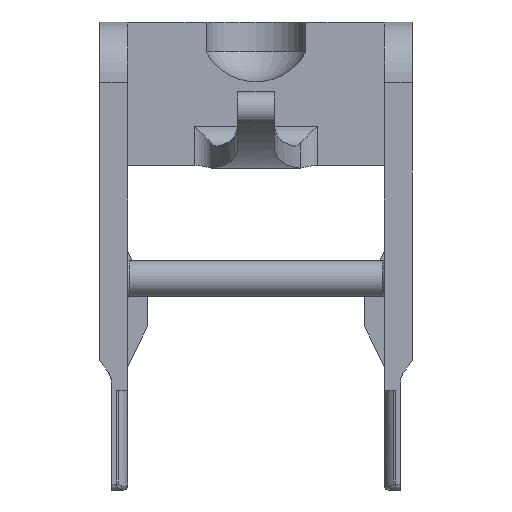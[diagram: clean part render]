
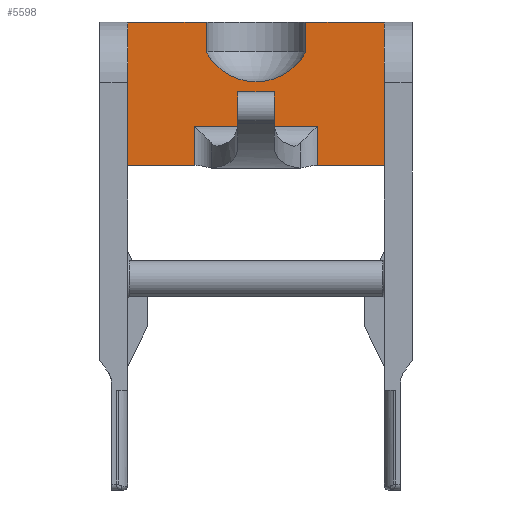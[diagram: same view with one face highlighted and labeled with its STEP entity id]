
A CAD part, front view. The second image highlights one B-rep face of the part: STEP entity #5598.
In plain terms, the highlighted planar face has unit normal (0, -1, 0).
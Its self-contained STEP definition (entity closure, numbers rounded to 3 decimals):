
#35 = VERTEX_POINT ( 'NONE', #6123 ) ;
#150 = DIRECTION ( 'NONE',  ( 0., 0., -1. ) ) ;
#184 = LINE ( 'NONE', #8215, #5785 ) ;
#277 = EDGE_CURVE ( 'NONE', #5712, #2434, #1921, .T. ) ;
#304 = VECTOR ( 'NONE', #1190, 1000. ) ;
#306 = VECTOR ( 'NONE', #6446, 1000. ) ;
#523 = VECTOR ( 'NONE', #150, 1000. ) ;
#581 = ORIENTED_EDGE ( 'NONE', *, *, #277, .T. ) ;
#715 = DIRECTION ( 'NONE',  ( 0., -1., 0. ) ) ;
#805 = CARTESIAN_POINT ( 'NONE',  ( 2.5, 24.555, 2.691 ) ) ;
#1190 = DIRECTION ( 'NONE',  ( 0., 0., 1. ) ) ;
#1214 = CARTESIAN_POINT ( 'NONE',  ( -19.47, 24.555, 4.191 ) ) ;
#1358 = CARTESIAN_POINT ( 'NONE',  ( 3.085, 24.555, -19.3 ) ) ;
#1422 = AXIS2_PLACEMENT_3D ( 'NONE', #3330, #3302, #8483 ) ;
#1446 = DIRECTION ( 'NONE',  ( 0., 0., 1. ) ) ;
#1574 = VECTOR ( 'NONE', #6541, 1000. ) ;
#1597 = VERTEX_POINT ( 'NONE', #6988 ) ;
#1617 = LINE ( 'NONE', #2232, #3568 ) ;
#1646 = VERTEX_POINT ( 'NONE', #2596 ) ;
#1738 = VERTEX_POINT ( 'NONE', #6334 ) ;
#1858 = ORIENTED_EDGE ( 'NONE', *, *, #7159, .T. ) ;
#1921 = CIRCLE ( 'NONE', #1422, 2.871 ) ;
#1968 = VERTEX_POINT ( 'NONE', #2934 ) ;
#1999 = ORIENTED_EDGE ( 'NONE', *, *, #8680, .T. ) ;
#2016 = CARTESIAN_POINT ( 'NONE',  ( 2.5, 24.555, 5.267 ) ) ;
#2144 = VECTOR ( 'NONE', #7093, 1000. ) ;
#2196 = LINE ( 'NONE', #4101, #304 ) ;
#2232 = CARTESIAN_POINT ( 'NONE',  ( -19.47, 24.555, 4.191 ) ) ;
#2305 = DIRECTION ( 'NONE',  ( 1., 0., 0. ) ) ;
#2306 = LINE ( 'NONE', #3684, #6247 ) ;
#2434 = VERTEX_POINT ( 'NONE', #4126 ) ;
#2472 = VECTOR ( 'NONE', #1446, 1000. ) ;
#2536 = LINE ( 'NONE', #2016, #306 ) ;
#2596 = CARTESIAN_POINT ( 'NONE',  ( 6.45, 24.555, 4.191 ) ) ;
#2667 = ORIENTED_EDGE ( 'NONE', *, *, #6531, .T. ) ;
#2858 = EDGE_CURVE ( 'NONE', #1968, #4213, #3622, .T. ) ;
#2899 = EDGE_CURVE ( 'NONE', #1738, #1646, #6164, .T. ) ;
#2934 = CARTESIAN_POINT ( 'NONE',  ( 3.085, 24.555, -3.009 ) ) ;
#3024 = EDGE_LOOP ( 'NONE', ( #4239, #2667, #581, #4294, #4335, #4585, #1858, #3740, #7265, #1999, #7248, #3720, #8025 ) ) ;
#3034 = CARTESIAN_POINT ( 'NONE',  ( 3.085, 24.555, -1.035 ) ) ;
#3181 = AXIS2_PLACEMENT_3D ( 'NONE', #5786, #715, #5813 ) ;
#3302 = DIRECTION ( 'NONE',  ( 0., 1., 0. ) ) ;
#3330 = CARTESIAN_POINT ( 'NONE',  ( -0.022, 24.555, 4.062 ) ) ;
#3350 = DIRECTION ( 'NONE',  ( 0., 1., 0. ) ) ;
#3461 = VERTEX_POINT ( 'NONE', #5792 ) ;
#3464 = EDGE_CURVE ( 'NONE', #7912, #3461, #9418, .T. ) ;
#3568 = VECTOR ( 'NONE', #6666, 1000. ) ;
#3622 = LINE ( 'NONE', #1358, #7560 ) ;
#3684 = CARTESIAN_POINT ( 'NONE',  ( -6.45, 24.555, -3.009 ) ) ;
#3720 = ORIENTED_EDGE ( 'NONE', *, *, #6570, .T. ) ;
#3734 = CARTESIAN_POINT ( 'NONE',  ( -2.5, 24.555, 2.691 ) ) ;
#3740 = ORIENTED_EDGE ( 'NONE', *, *, #6271, .T. ) ;
#3887 = LINE ( 'NONE', #9366, #7819 ) ;
#3927 = AXIS2_PLACEMENT_3D ( 'NONE', #7793, #3350, #8534 ) ;
#4081 = VERTEX_POINT ( 'NONE', #7396 ) ;
#4101 = CARTESIAN_POINT ( 'NONE',  ( -3.085, 24.555, -19.3 ) ) ;
#4126 = CARTESIAN_POINT ( 'NONE',  ( 0., 24.555, 1.191 ) ) ;
#4213 = VERTEX_POINT ( 'NONE', #3034 ) ;
#4239 = ORIENTED_EDGE ( 'NONE', *, *, #4856, .F. ) ;
#4294 = ORIENTED_EDGE ( 'NONE', *, *, #4505, .T. ) ;
#4335 = ORIENTED_EDGE ( 'NONE', *, *, #3464, .T. ) ;
#4505 = EDGE_CURVE ( 'NONE', #2434, #7912, #6710, .T. ) ;
#4585 = ORIENTED_EDGE ( 'NONE', *, *, #9192, .F. ) ;
#4683 = VERTEX_POINT ( 'NONE', #8757 ) ;
#4804 = VERTEX_POINT ( 'NONE', #5178 ) ;
#4856 = EDGE_CURVE ( 'NONE', #1597, #1646, #1617, .T. ) ;
#4959 = DIRECTION ( 'NONE',  ( 1., 0., 0. ) ) ;
#5059 = CARTESIAN_POINT ( 'NONE',  ( -2.5, 24.555, 5.267 ) ) ;
#5178 = CARTESIAN_POINT ( 'NONE',  ( -6.45, 24.555, -3.009 ) ) ;
#5259 = CARTESIAN_POINT ( 'NONE',  ( -6.45, 24.555, 1.141 ) ) ;
#5598 = ADVANCED_FACE ( 'NONE', ( #7252 ), #9479, .T. ) ;
#5712 = VERTEX_POINT ( 'NONE', #805 ) ;
#5785 = VECTOR ( 'NONE', #2305, 1000. ) ;
#5786 = CARTESIAN_POINT ( 'NONE',  ( -19.47, 24.555, 4.191 ) ) ;
#5792 = CARTESIAN_POINT ( 'NONE',  ( -2.5, 24.555, 4.191 ) ) ;
#5813 = DIRECTION ( 'NONE',  ( 0., 0., -1. ) ) ;
#5849 = CARTESIAN_POINT ( 'NONE',  ( 6.45, 24.555, 1.141 ) ) ;
#5896 = EDGE_CURVE ( 'NONE', #35, #4081, #2196, .T. ) ;
#6123 = CARTESIAN_POINT ( 'NONE',  ( -3.085, 24.555, -3.009 ) ) ;
#6164 = LINE ( 'NONE', #5849, #2472 ) ;
#6247 = VECTOR ( 'NONE', #8854, 1000. ) ;
#6271 = EDGE_CURVE ( 'NONE', #4804, #35, #184, .T. ) ;
#6334 = CARTESIAN_POINT ( 'NONE',  ( 6.45, 24.555, -3.009 ) ) ;
#6446 = DIRECTION ( 'NONE',  ( 0., 0., -1. ) ) ;
#6499 = DIRECTION ( 'NONE',  ( 0., 0., 1. ) ) ;
#6531 = EDGE_CURVE ( 'NONE', #1597, #5712, #2536, .T. ) ;
#6541 = DIRECTION ( 'NONE',  ( 0., 0., 1. ) ) ;
#6570 = EDGE_CURVE ( 'NONE', #1968, #1738, #2306, .T. ) ;
#6666 = DIRECTION ( 'NONE',  ( 1., 0., 0. ) ) ;
#6710 = CIRCLE ( 'NONE', #3927, 2.871 ) ;
#6988 = CARTESIAN_POINT ( 'NONE',  ( 2.5, 24.555, 4.191 ) ) ;
#7093 = DIRECTION ( 'NONE',  ( 1., 0., 0. ) ) ;
#7159 = EDGE_CURVE ( 'NONE', #4683, #4804, #8302, .T. ) ;
#7248 = ORIENTED_EDGE ( 'NONE', *, *, #2858, .F. ) ;
#7252 = FACE_OUTER_BOUND ( 'NONE', #3024, .T. ) ;
#7265 = ORIENTED_EDGE ( 'NONE', *, *, #5896, .T. ) ;
#7396 = CARTESIAN_POINT ( 'NONE',  ( -3.085, 24.555, -1.035 ) ) ;
#7560 = VECTOR ( 'NONE', #6499, 1000. ) ;
#7793 = CARTESIAN_POINT ( 'NONE',  ( 0.022, 24.555, 4.062 ) ) ;
#7819 = VECTOR ( 'NONE', #4959, 1000. ) ;
#7912 = VERTEX_POINT ( 'NONE', #3734 ) ;
#8025 = ORIENTED_EDGE ( 'NONE', *, *, #2899, .T. ) ;
#8041 = LINE ( 'NONE', #1214, #2144 ) ;
#8215 = CARTESIAN_POINT ( 'NONE',  ( -6.45, 24.555, -3.009 ) ) ;
#8302 = LINE ( 'NONE', #5259, #523 ) ;
#8483 = DIRECTION ( 'NONE',  ( 0., 0., -1. ) ) ;
#8534 = DIRECTION ( 'NONE',  ( 0., 0., -1. ) ) ;
#8680 = EDGE_CURVE ( 'NONE', #4081, #4213, #3887, .T. ) ;
#8757 = CARTESIAN_POINT ( 'NONE',  ( -6.45, 24.555, 4.191 ) ) ;
#8854 = DIRECTION ( 'NONE',  ( 1., 0., 0. ) ) ;
#9192 = EDGE_CURVE ( 'NONE', #4683, #3461, #8041, .T. ) ;
#9366 = CARTESIAN_POINT ( 'NONE',  ( 3.085, 24.555, -1.035 ) ) ;
#9418 = LINE ( 'NONE', #5059, #1574 ) ;
#9479 = PLANE ( 'NONE',  #3181 ) ;
